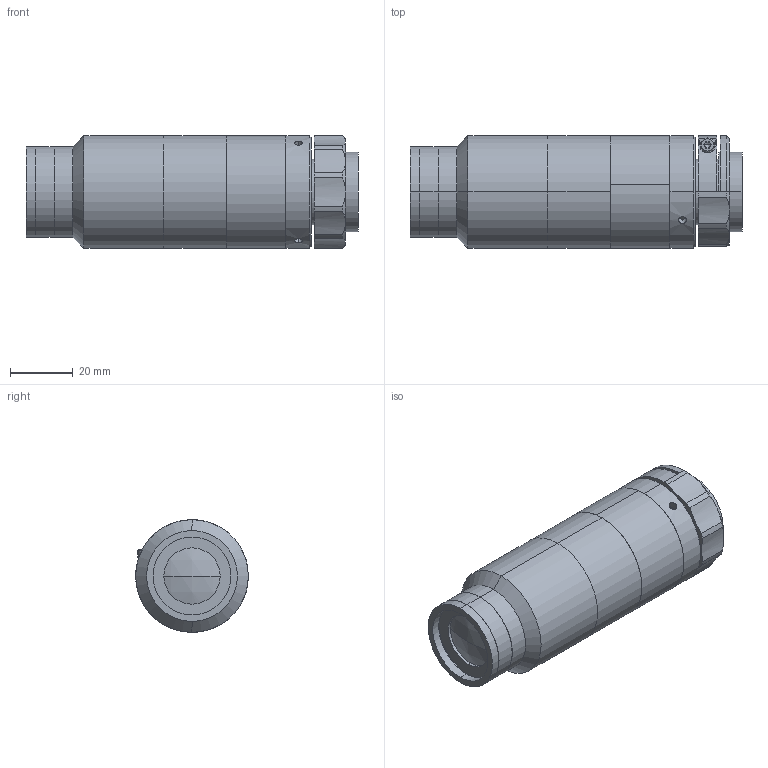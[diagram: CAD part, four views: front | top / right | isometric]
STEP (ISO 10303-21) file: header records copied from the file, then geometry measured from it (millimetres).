
FILE_DESCRIPTION (( 'STEP AP203' ), '1' );
FILE_NAME ('XF-MH06X140.STEP', '2020-08-24T07:09:52', ( 'canrill-02' ), ( '' ), 'SwSTEP 2.0', 'SolidWorks 2014', '' );
FILE_SCHEMA (( 'CONFIG_CONTROL_DESIGN' ));
Length unit declared in the file: millimetre
Products named in the file (1): XF-MH06X140
Bounding box: 106 x 36 x 36 mm (x, y, z)
Surface area: 18011.6 mm2 (no closed solid volume)
Topology: 0 solids, 12 shells, 104 faces, 274 edges, 186 vertices
Faces by surface type: cylinder 49, plane 36, cone 15, sphere 2, torus 2
Entity records: 3601 total; most frequent: CARTESIAN_POINT 884, DIRECTION 607, ORIENTED_EDGE 466, EDGE_CURVE 272, AXIS2_PLACEMENT_3D 253, VERTEX_POINT 186, CIRCLE 148, EDGE_LOOP 130
